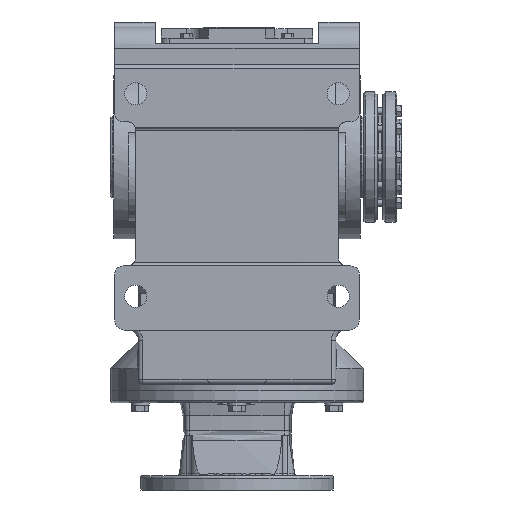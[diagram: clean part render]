
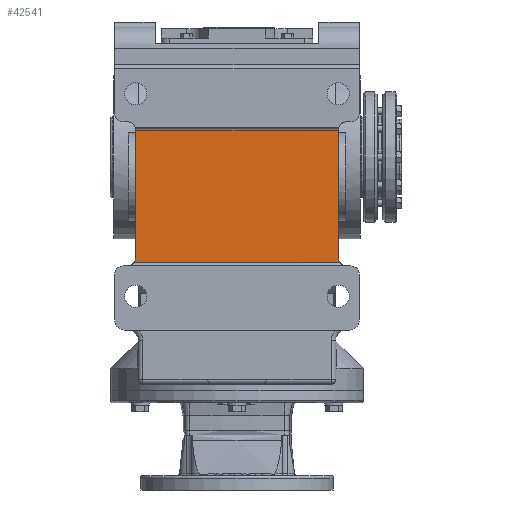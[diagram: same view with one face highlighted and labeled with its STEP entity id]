
A CAD part, front view. The second image highlights one B-rep face of the part: STEP entity #42541.
In plain terms, the highlighted planar face has unit normal (0, -1, 0).
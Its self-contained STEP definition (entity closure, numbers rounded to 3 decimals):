
#2472 = LINE ( 'NONE', #45067, #2480 ) ;
#2478 = CIRCLE ( 'NONE', #23266, 10. ) ;
#2480 = VECTOR ( 'NONE', #45094, 1000. ) ;
#2481 = CIRCLE ( 'NONE', #23267, 10. ) ;
#2482 = LINE ( 'NONE', #45096, #2487 ) ;
#2483 = LINE ( 'NONE', #45101, #2485 ) ;
#2485 = VECTOR ( 'NONE', #45095, 1000. ) ;
#2487 = VECTOR ( 'NONE', #45100, 1000. ) ;
#2598 = LINE ( 'NONE', #9580, #2602 ) ;
#2602 = VECTOR ( 'NONE', #9595, 1000. ) ;
#6844 = FACE_OUTER_BOUND ( 'NONE', #30439, .T. ) ;
#8324 = CARTESIAN_POINT ( 'NONE',  ( -145., -260., 31. ) ) ;
#8331 = PLANE ( 'NONE',  #39255 ) ;
#8333 = DIRECTION ( 'NONE',  ( 0., -1., 0. ) ) ;
#8334 = DIRECTION ( 'NONE',  ( 0., 0., -1. ) ) ;
#9580 = CARTESIAN_POINT ( 'NONE',  ( -145., -260., -125. ) ) ;
#9595 = DIRECTION ( 'NONE',  ( 1., 0., 0. ) ) ;
#23266 = AXIS2_PLACEMENT_3D ( 'NONE', #45097, #45098, #45099 ) ;
#23267 = AXIS2_PLACEMENT_3D ( 'NONE', #45102, #45103, #45104 ) ;
#29121 = CARTESIAN_POINT ( 'NONE',  ( 122., -260., -125. ) ) ;
#29140 = CARTESIAN_POINT ( 'NONE',  ( -122., -260., -125. ) ) ;
#30439 = EDGE_LOOP ( 'NONE', ( #46510, #46511, #46512, #46513, #46514, #46515 ) ) ;
#39255 = AXIS2_PLACEMENT_3D ( 'NONE', #8324, #8333, #8334 ) ;
#41792 = VERTEX_POINT ( 'NONE', #29121 ) ;
#41802 = VERTEX_POINT ( 'NONE', #29140 ) ;
#42541 = ADVANCED_FACE ( 'NONE', ( #6844 ), #8331, .T. ) ;
#45067 = CARTESIAN_POINT ( 'NONE',  ( 120., -260., 31. ) ) ;
#45094 = DIRECTION ( 'NONE',  ( 0., 0., -1. ) ) ;
#45095 = DIRECTION ( 'NONE',  ( 0., 0., 1. ) ) ;
#45096 = CARTESIAN_POINT ( 'NONE',  ( -145., -260., 31. ) ) ;
#45097 = CARTESIAN_POINT ( 'NONE',  ( 130., -260., -119. ) ) ;
#45098 = DIRECTION ( 'NONE',  ( 0., 1., 0. ) ) ;
#45099 = DIRECTION ( 'NONE',  ( 0., 0., -1. ) ) ;
#45100 = DIRECTION ( 'NONE',  ( 1., 0., 0. ) ) ;
#45101 = CARTESIAN_POINT ( 'NONE',  ( -120., -260., -125. ) ) ;
#45102 = CARTESIAN_POINT ( 'NONE',  ( -130., -260., -119. ) ) ;
#45103 = DIRECTION ( 'NONE',  ( 0., 1., 0. ) ) ;
#45104 = DIRECTION ( 'NONE',  ( 0., 0., -1. ) ) ;
#46510 = ORIENTED_EDGE ( 'NONE', *, *, #54039, .F. ) ;
#46511 = ORIENTED_EDGE ( 'NONE', *, *, #54036, .F. ) ;
#46512 = ORIENTED_EDGE ( 'NONE', *, *, #54034, .T. ) ;
#46513 = ORIENTED_EDGE ( 'NONE', *, *, #54195, .T. ) ;
#46514 = ORIENTED_EDGE ( 'NONE', *, *, #54032, .T. ) ;
#46515 = ORIENTED_EDGE ( 'NONE', *, *, #54030, .F. ) ;
#48905 = CARTESIAN_POINT ( 'NONE',  ( 120., -260., -119. ) ) ;
#48923 = CARTESIAN_POINT ( 'NONE',  ( 120., -260., 31. ) ) ;
#48933 = CARTESIAN_POINT ( 'NONE',  ( -120., -260., 31. ) ) ;
#48941 = CARTESIAN_POINT ( 'NONE',  ( -120., -260., -119. ) ) ;
#54030 = EDGE_CURVE ( 'NONE', #55630, #55617, #2472, .T. ) ;
#54032 = EDGE_CURVE ( 'NONE', #41792, #55617, #2478, .T. ) ;
#54034 = EDGE_CURVE ( 'NONE', #55643, #41802, #2481, .T. ) ;
#54036 = EDGE_CURVE ( 'NONE', #55643, #55638, #2483, .T. ) ;
#54039 = EDGE_CURVE ( 'NONE', #55638, #55630, #2482, .T. ) ;
#54195 = EDGE_CURVE ( 'NONE', #41802, #41792, #2598, .T. ) ;
#55617 = VERTEX_POINT ( 'NONE', #48905 ) ;
#55630 = VERTEX_POINT ( 'NONE', #48923 ) ;
#55638 = VERTEX_POINT ( 'NONE', #48933 ) ;
#55643 = VERTEX_POINT ( 'NONE', #48941 ) ;
